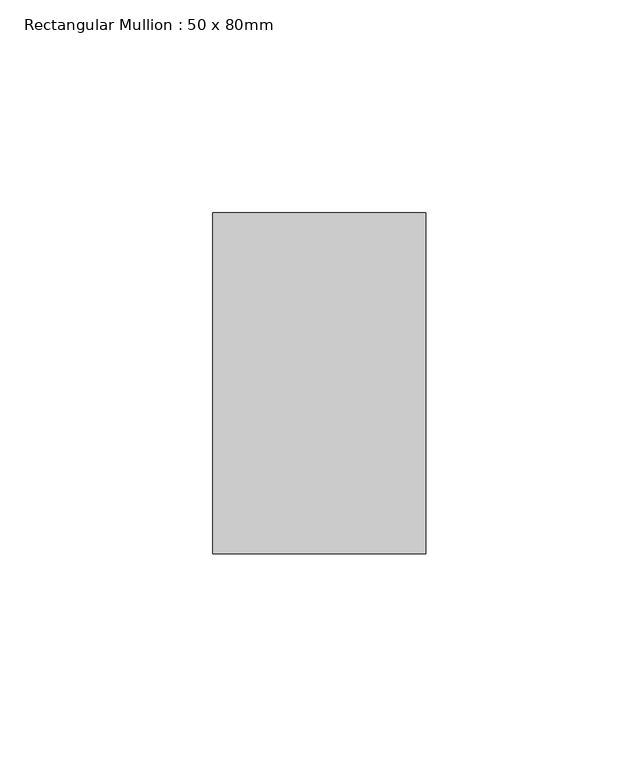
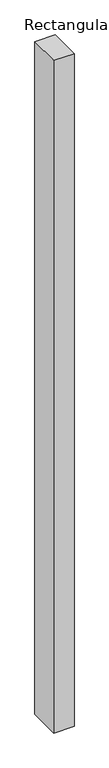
"""IFC4 building model written with IfcOpenShell, lengths in millimetres: member geometry, Rectangular Mullion : 50 x 80mm."""

from ifc_helpers import new_model, si_unit, frame, origin, place, context, project, spatial, polyline, outline, extrude, source, transform, mapped, element, save


def rectangular_mullion_50_x_80mm_7a5850f5(model_context):
    return source(origin(), model_context, "Body", "SweptSolid", [
        extrude(outline(polyline([(0.0, 25.0), (0.0, -55.0), (-50.0, -55.0), (-50.0, 25.0), (0.0, 25.0)])), frame((0.0, 0.0, -1750.0), z_axis=(0.0, 0.0, 1.0), x_axis=(1.0, 0.0, 0.0)), (0.0, 0.0, 1.0), 1750.0),
    ])


if __name__ == "__main__":
    model = new_model("IFC4")
    model_context = context("Model", 3, world=origin())
    ifc_project = project(units=[si_unit("LENGTHUNIT", "METRE", prefix="MILLI")], contexts=[model_context])
    site = spatial("IfcSite", under=ifc_project)
    building = spatial("IfcBuilding", under=site)
    placement = place(None, origin())
    rectangular_mullion_50_x_80mm_shape = rectangular_mullion_50_x_80mm_7a5850f5(model_context)
    element("IfcMember", 1, ObjectType="Rectangular Mullion : 50 x 80mm", at=placement, inside=building, context=model_context, shape_type="MappedRepresentation", body=[
        mapped(rectangular_mullion_50_x_80mm_shape, transform((0.0, 0.0, 0.0), x_axis=(1.0, 0.0, 0.0), y_axis=(0.0, 1.0, 0.0), z_axis=(0.0, 0.0, 1.0))),
    ])
    save(model, "model.ifc")
